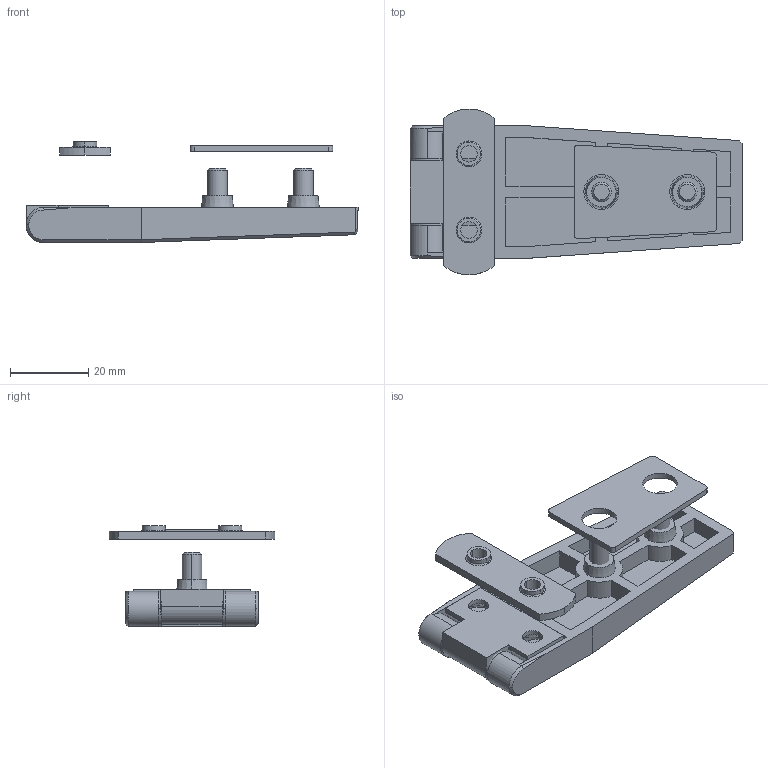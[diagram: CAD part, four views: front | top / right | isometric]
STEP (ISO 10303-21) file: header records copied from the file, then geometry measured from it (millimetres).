
FILE_DESCRIPTION (( 'STEP AP214' ), '1' );
FILE_NAME ('ZN110.STEP', '2010-02-09T13:09:54', ( 'Rak' ), ( 'ROZTOCZE' ), 'SwSTEP 2.0', 'SolidWorks 2004231', '' );
FILE_SCHEMA (( 'AUTOMOTIVE_DESIGN' ));
Length unit declared in the file: millimetre
Products named in the file (8): 3A.ZN110.001.06_Default_Domyœlna_Domyœlna; 3A.ZN110.001.02_Default_Domyœlna_Domyœlna; 3A.ZN110.001.01_Default_Domyœlna_Domyœlna; 3A.ZN110.001.05_Default_Domyœlna_Domyœlna; 3A.ZN110.001.04_Default_Domyœlna_Domyœlna; Szpilka M5x15_Default_Domyœlna_Domyœlna; 3A.ZN110.03.00.00_Default_Domyœlna_Domyœlna; ZN110
Assembly tree (9 placements, depth 2):
  ZN110
    Szpilka M5x15_Default_Domyœlna_Domyœlna  x2
    3A.ZN110.001.04_Default_Domyœlna_Domyœlna  x2
    3A.ZN110.001.05_Default_Domyœlna_Domyœlna
    3A.ZN110.001.01_Default_Domyœlna_Domyœlna
    3A.ZN110.001.02_Default_Domyœlna_Domyœlna
    3A.ZN110.001.06_Default_Domyœlna_Domyœlna
    3A.ZN110.03.00.00_Default_Domyœlna_Domyœlna
Bounding box: 85 x 42.47 x 25.85 mm (x, y, z)
Volume: 19220.9 mm3; surface area: 15068.4 mm2
Topology: 9 solids, 9 shells, 208 faces, 506 edges, 327 vertices
Faces by surface type: plane 102, cylinder 79, cone 19, torus 8
Entity records: 9741 total; most frequent: CARTESIAN_POINT 2775, ORIENTED_EDGE 960, DIRECTION 918, EDGE_CURVE 480, AXIS2_PLACEMENT_3D 318, VERTEX_POINT 311, VECTOR 282, LINE 282
